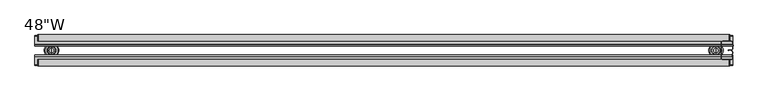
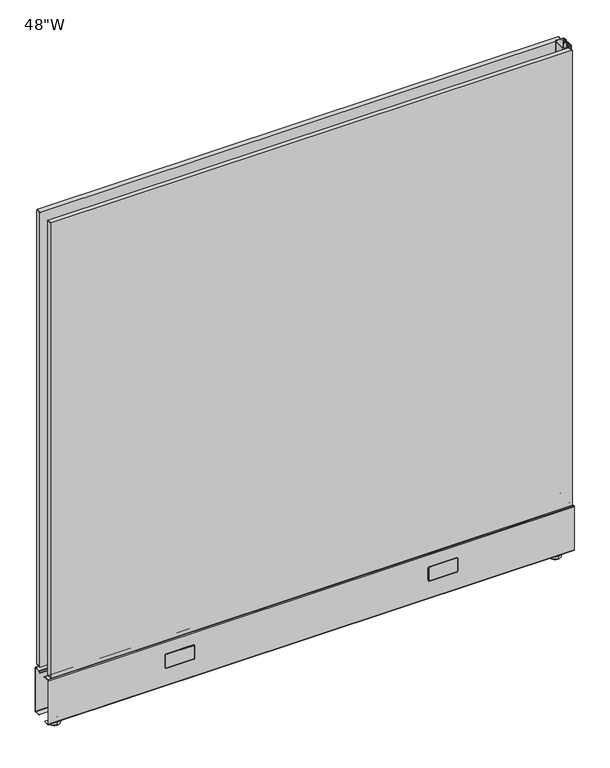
"""IFC4 building model written with IfcOpenShell, lengths in millimetres: furniture geometry."""

from ifc_helpers import new_model, si_unit, point, frame, frame_2d, origin, place, context, project, spatial, polyline, circle_curve, trimmed, segment, composite_curve, outline, extrude, source, transform, mapped, element, save
from ifc_brep_helpers import plane_surface, cylinder_surface, revolved_surface, advanced_brep


def furniture_95dbc46c(model_context):
    return source(origin(), model_context, "Body", "SolidModel", [
        extrude(outline(composite_curve([segment(trimmed(circle_curve(frame_2d((133.8403843, 1213.1740343)), 1.2634657), [point((132.5769186, 1213.1740343))], [point((133.8403843, 1214.4375))], False, "CARTESIAN"), True, "CONTINUOUS"), segment(polyline([(133.8403843, 1214.4375), (1245.2602242, 1214.4375)]), True, "CONTINUOUS"), segment(trimmed(circle_curve(frame_2d((1245.2602242, 1212.5941949)), 1.8433051), [point((1245.2602242, 1214.4375))], [point((1247.1035294, 1212.5941949))], False, "CARTESIAN"), True, "CONTINUOUS"), segment(polyline([(1247.1035294, 1212.5941949), (1247.1035294, 6.3370556)]), True, "CONTINUOUS"), segment(trimmed(circle_curve(frame_2d((1245.4908737, 6.3370556)), 1.6126556), [point((1247.1035294, 6.3370556))], [point((1245.4908737, 4.7243999))], False, "CARTESIAN"), True, "CONTINUOUS"), segment(polyline([(1245.4908737, 4.7243999), (134.0795596, 4.7243999)]), True, "CONTINUOUS"), segment(trimmed(circle_curve(frame_2d((134.0795596, 6.227041)), 1.5026411), [point((134.0795596, 4.7243999))], [point((132.5769186, 6.227041))], False, "CARTESIAN"), True, "CONTINUOUS"), segment(polyline([(132.5769186, 6.227041), (132.5769186, 1213.1740343)]), True, "CONTINUOUS")], self_intersect=False)), frame((0.0, 44.4550341, 0.0), z_axis=(0.0, 1.0, 0.0), x_axis=(0.0, 0.0, 1.0)), (0.0, 0.0, 1.0), 11.5108241),
        extrude(outline(composite_curve([segment(trimmed(circle_curve(frame_2d((133.8403843, 1213.1740343)), 1.2634657), [point((132.5769186, 1213.1740343))], [point((133.8403843, 1214.4375))], False, "CARTESIAN"), True, "CONTINUOUS"), segment(polyline([(133.8403843, 1214.4375), (1245.2602242, 1214.4375)]), True, "CONTINUOUS"), segment(trimmed(circle_curve(frame_2d((1245.2602242, 1212.5941949)), 1.8433051), [point((1245.2602242, 1214.4375))], [point((1247.1035294, 1212.5941949))], False, "CARTESIAN"), True, "CONTINUOUS"), segment(polyline([(1247.1035294, 1212.5941949), (1247.1035294, 6.3370556)]), True, "CONTINUOUS"), segment(trimmed(circle_curve(frame_2d((1245.4908737, 6.3370556)), 1.6126556), [point((1247.1035294, 6.3370556))], [point((1245.4908737, 4.7243999))], False, "CARTESIAN"), True, "CONTINUOUS"), segment(polyline([(1245.4908737, 4.7243999), (134.0795596, 4.7243999)]), True, "CONTINUOUS"), segment(trimmed(circle_curve(frame_2d((134.0795596, 6.227041)), 1.5026411), [point((134.0795596, 4.7243999))], [point((132.5769186, 6.227041))], False, "CARTESIAN"), True, "CONTINUOUS"), segment(polyline([(132.5769186, 6.227041), (132.5769186, 1213.1740343)]), True, "CONTINUOUS")], self_intersect=False)), frame((0.0, 1.3335, 0.0), z_axis=(0.0, 1.0, 0.0), x_axis=(0.0, 0.0, 1.0)), (0.0, 0.0, 1.0), 11.5108241),
        extrude(outline(composite_curve([segment(trimmed(circle_curve(frame_2d((94.8528373, 273.6849782)), 3.175), [point((98.0278373, 273.6849782))], [point((94.8528373, 270.5099782))], False, "CARTESIAN"), True, "CONTINUOUS"), segment(polyline([(94.8528373, 270.5099782), (66.2778343, 270.5099782)]), True, "CONTINUOUS"), segment(trimmed(circle_curve(frame_2d((66.2778343, 273.6849782)), 3.175), [point((66.2778343, 270.5099782))], [point((63.1028343, 273.6849782))], False, "CARTESIAN"), True, "CONTINUOUS"), segment(polyline([(63.1028343, 273.6849782), (63.1028343, 335.9150036)]), True, "CONTINUOUS"), segment(trimmed(circle_curve(frame_2d((66.2778343, 335.9150036)), 3.175), [point((63.1028343, 335.9150036))], [point((66.2778343, 339.0900036))], False, "CARTESIAN"), True, "CONTINUOUS"), segment(polyline([(66.2778343, 339.0900036), (94.8528373, 339.0900036)]), True, "CONTINUOUS"), segment(trimmed(circle_curve(frame_2d((94.8528373, 335.9150036)), 3.175), [point((94.8528373, 339.0900036))], [point((98.0278373, 335.9150036))], False, "CARTESIAN"), True, "CONTINUOUS"), segment(polyline([(98.0278373, 335.9150036), (98.0278373, 273.6849782)]), True, "CONTINUOUS")], self_intersect=False), holes=[composite_curve([segment(trimmed(circle_curve(frame_2d((66.2778343, 335.9150036)), 2.38125), [point((66.2778343, 338.2962536))], [point((63.8965843, 335.9150036))], True, "CARTESIAN"), True, "CONTINUOUS"), segment(polyline([(63.8965843, 335.9150036), (63.8965843, 273.6849782)]), True, "CONTINUOUS"), segment(trimmed(circle_curve(frame_2d((66.2778343, 273.6849782)), 2.38125), [point((63.8965843, 273.6849782))], [point((66.2778343, 271.3037282))], True, "CARTESIAN"), True, "CONTINUOUS"), segment(polyline([(66.2778343, 271.3037282), (94.8528373, 271.3037282)]), True, "CONTINUOUS"), segment(trimmed(circle_curve(frame_2d((94.8528373, 273.6849782)), 2.38125), [point((94.8528373, 271.3037282))], [point((97.2340873, 273.6849782))], True, "CARTESIAN"), True, "CONTINUOUS"), segment(polyline([(97.2340873, 273.6849782), (97.2340873, 335.9150036)]), True, "CONTINUOUS"), segment(trimmed(circle_curve(frame_2d((94.8528373, 335.9150036)), 2.38125), [point((97.2340873, 335.9150036))], [point((94.8528373, 338.2962536))], True, "CARTESIAN"), True, "CONTINUOUS"), segment(polyline([(94.8528373, 338.2962536), (66.2778343, 338.2962536)]), True, "CONTINUOUS")], self_intersect=False)]), frame((0.0, 55.054502, 0.0), z_axis=(0.0, 1.0, 0.0), x_axis=(0.0, 0.0, 1.0)), (0.0, 0.0, 1.0), 0.79375),
        extrude(outline(composite_curve([segment(trimmed(circle_curve(frame_2d((94.8528373, 335.9150036)), 1.984375), [point((94.8528373, 337.8993786))], [point((96.8372123, 335.9150036))], False, "CARTESIAN"), True, "CONTINUOUS"), segment(polyline([(96.8372123, 335.9150036), (96.8372123, 273.6849782)]), True, "CONTINUOUS"), segment(trimmed(circle_curve(frame_2d((94.8528373, 273.6849782)), 1.984375), [point((96.8372123, 273.6849782))], [point((94.8528373, 271.7006032))], False, "CARTESIAN"), True, "CONTINUOUS"), segment(polyline([(94.8528373, 271.7006032), (66.2778343, 271.7006032)]), True, "CONTINUOUS"), segment(trimmed(circle_curve(frame_2d((66.2778343, 273.6849782)), 1.984375), [point((66.2778343, 271.7006032))], [point((64.2934593, 273.6849782))], False, "CARTESIAN"), True, "CONTINUOUS"), segment(polyline([(64.2934593, 273.6849782), (64.2934593, 335.9150036)]), True, "CONTINUOUS"), segment(trimmed(circle_curve(frame_2d((66.2778343, 335.9150036)), 1.984375), [point((64.2934593, 335.9150036))], [point((66.2778343, 337.8993786))], False, "CARTESIAN"), True, "CONTINUOUS"), segment(polyline([(66.2778343, 337.8993786), (94.8528373, 337.8993786)]), True, "CONTINUOUS")], self_intersect=False)), frame((0.0, 55.054502, 0.0), z_axis=(0.0, 1.0, 0.0), x_axis=(0.0, 0.0, 1.0)), (0.0, 0.0, 1.0), 0.79375),
        extrude(outline(composite_curve([segment(trimmed(circle_curve(frame_2d((94.8528373, 883.3103491)), 3.175), [point((98.0278373, 883.3103491))], [point((94.8528373, 880.1353491))], False, "CARTESIAN"), True, "CONTINUOUS"), segment(polyline([(94.8528373, 880.1353491), (66.2778343, 880.1353491)]), True, "CONTINUOUS"), segment(trimmed(circle_curve(frame_2d((66.2778343, 883.3103491)), 3.175), [point((66.2778343, 880.1353491))], [point((63.1028343, 883.3103491))], False, "CARTESIAN"), True, "CONTINUOUS"), segment(polyline([(63.1028343, 883.3103491), (63.1028343, 945.5403745)]), True, "CONTINUOUS"), segment(trimmed(circle_curve(frame_2d((66.2778343, 945.5403745)), 3.175), [point((63.1028343, 945.5403745))], [point((66.2778343, 948.7153745))], False, "CARTESIAN"), True, "CONTINUOUS"), segment(polyline([(66.2778343, 948.7153745), (94.8528373, 948.7153745)]), True, "CONTINUOUS"), segment(trimmed(circle_curve(frame_2d((94.8528373, 945.5403745)), 3.175), [point((94.8528373, 948.7153745))], [point((98.0278373, 945.5403745))], False, "CARTESIAN"), True, "CONTINUOUS"), segment(polyline([(98.0278373, 945.5403745), (98.0278373, 883.3103491)]), True, "CONTINUOUS")], self_intersect=False), holes=[composite_curve([segment(trimmed(circle_curve(frame_2d((66.2778343, 945.5403745)), 2.38125), [point((66.2778343, 947.9216245))], [point((63.8965843, 945.5403745))], True, "CARTESIAN"), True, "CONTINUOUS"), segment(polyline([(63.8965843, 945.5403745), (63.8965843, 883.3103491)]), True, "CONTINUOUS"), segment(trimmed(circle_curve(frame_2d((66.2778343, 883.3103491)), 2.38125), [point((63.8965843, 883.3103491))], [point((66.2778343, 880.9290991))], True, "CARTESIAN"), True, "CONTINUOUS"), segment(polyline([(66.2778343, 880.9290991), (94.8528373, 880.9290991)]), True, "CONTINUOUS"), segment(trimmed(circle_curve(frame_2d((94.8528373, 883.3103491)), 2.38125), [point((94.8528373, 880.9290991))], [point((97.2340873, 883.3103491))], True, "CARTESIAN"), True, "CONTINUOUS"), segment(polyline([(97.2340873, 883.3103491), (97.2340873, 945.5403745)]), True, "CONTINUOUS"), segment(trimmed(circle_curve(frame_2d((94.8528373, 945.5403745)), 2.38125), [point((97.2340873, 945.5403745))], [point((94.8528373, 947.9216245))], True, "CARTESIAN"), True, "CONTINUOUS"), segment(polyline([(94.8528373, 947.9216245), (66.2778343, 947.9216245)]), True, "CONTINUOUS")], self_intersect=False)]), frame((0.0, 55.054502, 0.0), z_axis=(0.0, 1.0, 0.0), x_axis=(0.0, 0.0, 1.0)), (0.0, 0.0, 1.0), 0.79375),
        extrude(outline(composite_curve([segment(trimmed(circle_curve(frame_2d((94.8528373, 945.5403745)), 1.984375), [point((94.8528373, 947.5247495))], [point((96.8372123, 945.5403745))], False, "CARTESIAN"), True, "CONTINUOUS"), segment(polyline([(96.8372123, 945.5403745), (96.8372123, 883.3103491)]), True, "CONTINUOUS"), segment(trimmed(circle_curve(frame_2d((94.8528373, 883.3103491)), 1.984375), [point((96.8372123, 883.3103491))], [point((94.8528373, 881.3259741))], False, "CARTESIAN"), True, "CONTINUOUS"), segment(polyline([(94.8528373, 881.3259741), (66.2778343, 881.3259741)]), True, "CONTINUOUS"), segment(trimmed(circle_curve(frame_2d((66.2778343, 883.3103491)), 1.984375), [point((66.2778343, 881.3259741))], [point((64.2934593, 883.3103491))], False, "CARTESIAN"), True, "CONTINUOUS"), segment(polyline([(64.2934593, 883.3103491), (64.2934593, 945.5403745)]), True, "CONTINUOUS"), segment(trimmed(circle_curve(frame_2d((66.2778343, 945.5403745)), 1.984375), [point((64.2934593, 945.5403745))], [point((66.2778343, 947.5247495))], False, "CARTESIAN"), True, "CONTINUOUS"), segment(polyline([(66.2778343, 947.5247495), (94.8528373, 947.5247495)]), True, "CONTINUOUS")], self_intersect=False)), frame((0.0, 55.054502, 0.0), z_axis=(0.0, 1.0, 0.0), x_axis=(0.0, 0.0, 1.0)), (0.0, 0.0, 1.0), 0.79375),
        extrude(outline(composite_curve([segment(trimmed(circle_curve(frame_2d((94.8528373, 883.3103491)), 3.175), [point((98.0278373, 883.3103491))], [point((94.8528373, 880.1353491))], False, "CARTESIAN"), True, "CONTINUOUS"), segment(polyline([(94.8528373, 880.1353491), (66.2778343, 880.1353491)]), True, "CONTINUOUS"), segment(trimmed(circle_curve(frame_2d((66.2778343, 883.3103491)), 3.175), [point((66.2778343, 880.1353491))], [point((63.1028343, 883.3103491))], False, "CARTESIAN"), True, "CONTINUOUS"), segment(polyline([(63.1028343, 883.3103491), (63.1028343, 945.5403745)]), True, "CONTINUOUS"), segment(trimmed(circle_curve(frame_2d((66.2778343, 945.5403745)), 3.175), [point((63.1028343, 945.5403745))], [point((66.2778343, 948.7153745))], False, "CARTESIAN"), True, "CONTINUOUS"), segment(polyline([(66.2778343, 948.7153745), (94.8528373, 948.7153745)]), True, "CONTINUOUS"), segment(trimmed(circle_curve(frame_2d((94.8528373, 945.5403745)), 3.175), [point((94.8528373, 948.7153745))], [point((98.0278373, 945.5403745))], False, "CARTESIAN"), True, "CONTINUOUS"), segment(polyline([(98.0278373, 945.5403745), (98.0278373, 883.3103491)]), True, "CONTINUOUS")], self_intersect=False), holes=[composite_curve([segment(trimmed(circle_curve(frame_2d((66.2778343, 945.5403745)), 2.38125), [point((66.2778343, 947.9216245))], [point((63.8965843, 945.5403745))], True, "CARTESIAN"), True, "CONTINUOUS"), segment(polyline([(63.8965843, 945.5403745), (63.8965843, 883.3103491)]), True, "CONTINUOUS"), segment(trimmed(circle_curve(frame_2d((66.2778343, 883.3103491)), 2.38125), [point((63.8965843, 883.3103491))], [point((66.2778343, 880.9290991))], True, "CARTESIAN"), True, "CONTINUOUS"), segment(polyline([(66.2778343, 880.9290991), (94.8528373, 880.9290991)]), True, "CONTINUOUS"), segment(trimmed(circle_curve(frame_2d((94.8528373, 883.3103491)), 2.38125), [point((94.8528373, 880.9290991))], [point((97.2340873, 883.3103491))], True, "CARTESIAN"), True, "CONTINUOUS"), segment(polyline([(97.2340873, 883.3103491), (97.2340873, 945.5403745)]), True, "CONTINUOUS"), segment(trimmed(circle_curve(frame_2d((94.8528373, 945.5403745)), 2.38125), [point((97.2340873, 945.5403745))], [point((94.8528373, 947.9216245))], True, "CARTESIAN"), True, "CONTINUOUS"), segment(polyline([(94.8528373, 947.9216245), (66.2778343, 947.9216245)]), True, "CONTINUOUS")], self_intersect=False)]), frame((0.0, 1.2954, 0.0), z_axis=(0.0, 1.0, 0.0), x_axis=(0.0, 0.0, 1.0)), (0.0, 0.0, 1.0), 0.79375),
        extrude(outline(composite_curve([segment(trimmed(circle_curve(frame_2d((94.8528373, 945.5403745)), 1.984375), [point((94.8528373, 947.5247495))], [point((96.8372123, 945.5403745))], False, "CARTESIAN"), True, "CONTINUOUS"), segment(polyline([(96.8372123, 945.5403745), (96.8372123, 883.3103491)]), True, "CONTINUOUS"), segment(trimmed(circle_curve(frame_2d((94.8528373, 883.3103491)), 1.984375), [point((96.8372123, 883.3103491))], [point((94.8528373, 881.3259741))], False, "CARTESIAN"), True, "CONTINUOUS"), segment(polyline([(94.8528373, 881.3259741), (66.2778343, 881.3259741)]), True, "CONTINUOUS"), segment(trimmed(circle_curve(frame_2d((66.2778343, 883.3103491)), 1.984375), [point((66.2778343, 881.3259741))], [point((64.2934593, 883.3103491))], False, "CARTESIAN"), True, "CONTINUOUS"), segment(polyline([(64.2934593, 883.3103491), (64.2934593, 945.5403745)]), True, "CONTINUOUS"), segment(trimmed(circle_curve(frame_2d((66.2778343, 945.5403745)), 1.984375), [point((64.2934593, 945.5403745))], [point((66.2778343, 947.5247495))], False, "CARTESIAN"), True, "CONTINUOUS"), segment(polyline([(66.2778343, 947.5247495), (94.8528373, 947.5247495)]), True, "CONTINUOUS")], self_intersect=False)), frame((0.0, 1.2954, 0.0), z_axis=(0.0, 1.0, 0.0), x_axis=(0.0, 0.0, 1.0)), (0.0, 0.0, 1.0), 0.79375),
        extrude(outline(composite_curve([segment(trimmed(circle_curve(frame_2d((94.8528373, 273.6849782)), 3.175), [point((98.0278373, 273.6849782))], [point((94.8528373, 270.5099782))], False, "CARTESIAN"), True, "CONTINUOUS"), segment(polyline([(94.8528373, 270.5099782), (66.2778343, 270.5099782)]), True, "CONTINUOUS"), segment(trimmed(circle_curve(frame_2d((66.2778343, 273.6849782)), 3.175), [point((66.2778343, 270.5099782))], [point((63.1028343, 273.6849782))], False, "CARTESIAN"), True, "CONTINUOUS"), segment(polyline([(63.1028343, 273.6849782), (63.1028343, 335.9150036)]), True, "CONTINUOUS"), segment(trimmed(circle_curve(frame_2d((66.2778343, 335.9150036)), 3.175), [point((63.1028343, 335.9150036))], [point((66.2778343, 339.0900036))], False, "CARTESIAN"), True, "CONTINUOUS"), segment(polyline([(66.2778343, 339.0900036), (94.8528373, 339.0900036)]), True, "CONTINUOUS"), segment(trimmed(circle_curve(frame_2d((94.8528373, 335.9150036)), 3.175), [point((94.8528373, 339.0900036))], [point((98.0278373, 335.9150036))], False, "CARTESIAN"), True, "CONTINUOUS"), segment(polyline([(98.0278373, 335.9150036), (98.0278373, 273.6849782)]), True, "CONTINUOUS")], self_intersect=False), holes=[composite_curve([segment(trimmed(circle_curve(frame_2d((66.2778343, 335.9150036)), 2.38125), [point((66.2778343, 338.2962536))], [point((63.8965843, 335.9150036))], True, "CARTESIAN"), True, "CONTINUOUS"), segment(polyline([(63.8965843, 335.9150036), (63.8965843, 273.6849782)]), True, "CONTINUOUS"), segment(trimmed(circle_curve(frame_2d((66.2778343, 273.6849782)), 2.38125), [point((63.8965843, 273.6849782))], [point((66.2778343, 271.3037282))], True, "CARTESIAN"), True, "CONTINUOUS"), segment(polyline([(66.2778343, 271.3037282), (94.8528373, 271.3037282)]), True, "CONTINUOUS"), segment(trimmed(circle_curve(frame_2d((94.8528373, 273.6849782)), 2.38125), [point((94.8528373, 271.3037282))], [point((97.2340873, 273.6849782))], True, "CARTESIAN"), True, "CONTINUOUS"), segment(polyline([(97.2340873, 273.6849782), (97.2340873, 335.9150036)]), True, "CONTINUOUS"), segment(trimmed(circle_curve(frame_2d((94.8528373, 335.9150036)), 2.38125), [point((97.2340873, 335.9150036))], [point((94.8528373, 338.2962536))], True, "CARTESIAN"), True, "CONTINUOUS"), segment(polyline([(94.8528373, 338.2962536), (66.2778343, 338.2962536)]), True, "CONTINUOUS")], self_intersect=False)]), frame((0.0, 1.2954, 0.0), z_axis=(0.0, 1.0, 0.0), x_axis=(0.0, 0.0, 1.0)), (0.0, 0.0, 1.0), 0.79375),
        extrude(outline(composite_curve([segment(trimmed(circle_curve(frame_2d((94.8528373, 335.9150036)), 1.984375), [point((94.8528373, 337.8993786))], [point((96.8372123, 335.9150036))], False, "CARTESIAN"), True, "CONTINUOUS"), segment(polyline([(96.8372123, 335.9150036), (96.8372123, 273.6849782)]), True, "CONTINUOUS"), segment(trimmed(circle_curve(frame_2d((94.8528373, 273.6849782)), 1.984375), [point((96.8372123, 273.6849782))], [point((94.8528373, 271.7006032))], False, "CARTESIAN"), True, "CONTINUOUS"), segment(polyline([(94.8528373, 271.7006032), (66.2778343, 271.7006032)]), True, "CONTINUOUS"), segment(trimmed(circle_curve(frame_2d((66.2778343, 273.6849782)), 1.984375), [point((66.2778343, 271.7006032))], [point((64.2934593, 273.6849782))], False, "CARTESIAN"), True, "CONTINUOUS"), segment(polyline([(64.2934593, 273.6849782), (64.2934593, 335.9150036)]), True, "CONTINUOUS"), segment(trimmed(circle_curve(frame_2d((66.2778343, 335.9150036)), 1.984375), [point((64.2934593, 335.9150036))], [point((66.2778343, 337.8993786))], False, "CARTESIAN"), True, "CONTINUOUS"), segment(polyline([(66.2778343, 337.8993786), (94.8528373, 337.8993786)]), True, "CONTINUOUS")], self_intersect=False)), frame((0.0, 1.2954, 0.0), z_axis=(0.0, 1.0, 0.0), x_axis=(0.0, 0.0, 1.0)), (0.0, 0.0, 1.0), 0.79375),
        advanced_brep(
        [(1189.9900097, 41.1455956, 7.9264178), (1189.9900097, 16.0044044, 7.9264178), (1189.9900097, 17.5919044, 9.5139178), (1189.9900097, 39.5580956, 9.5139178), (1189.9900097, 41.1455956, 0.79375), (1189.9900097, 16.0044044, 0.79375), (1189.9900097, 40.3518456, 0.0), (1189.9900097, 16.7981544, 0.0), (1189.9900097, 28.575, 0.0), (1189.9900097, 35.6235001, 11.2919173), (1189.9900097, 21.5264999, 11.2919173), (1189.9900097, 24.6038476, 11.2919173), (1189.9900097, 32.5461524, 11.2919173), (1189.9900097, 36.2584995, 10.6569179), (1189.9900097, 20.8915005, 10.6569179), (1189.9900097, 36.2584995, 9.5139178), (1189.9900097, 20.8915005, 9.5139178), (1189.9900097, 32.5461524, 27.1248686), (1189.9900097, 24.6038476, 27.1248686), (1189.9900097, 28.575, 27.1248686)],
        [
            (0, 1, circle_curve(frame((1189.9900097, 28.575, 7.9264178), z_axis=(0.0, 0.0, 1.0), x_axis=(0.0, -1.0, 0.0)), 12.5705956)),
            (1, 2),
            (2, 3, circle_curve(frame((1189.9900097, 28.575, 9.5139178), z_axis=(0.0, 0.0, -1.0), x_axis=(0.0, -1.0, 0.0)), 10.9830956)),
            (3, 0),
            (1, 0, circle_curve(frame((1189.9900097, 28.575, 7.9264178), z_axis=(0.0, 0.0, 1.0), x_axis=(0.0, -1.0, 0.0)), 12.5705956)),
            (3, 2, circle_curve(frame((1189.9900097, 28.575, 9.5139178), z_axis=(0.0, 0.0, -1.0), x_axis=(0.0, -1.0, 0.0)), 10.9830956)),
            (4, 5, circle_curve(frame((1189.9900097, 28.575, 0.79375), z_axis=(0.0, 0.0, 1.0), x_axis=(0.0, -1.0, 0.0)), 12.5705956)),
            (5, 1),
            (0, 4),
            (5, 4, circle_curve(frame((1189.9900097, 28.575, 0.79375), z_axis=(0.0, 0.0, 1.0), x_axis=(0.0, -1.0, 0.0)), 12.5705956)),
            (6, 7, circle_curve(frame((1189.9900097, 28.575, 0.0), z_axis=(0.0, 0.0, 1.0), x_axis=(0.0, -1.0, 0.0)), 11.7768456)),
            (7, 5),
            (4, 6),
            (7, 6, circle_curve(frame((1189.9900097, 28.575, 0.0), z_axis=(0.0, 0.0, 1.0), x_axis=(0.0, -1.0, 0.0)), 11.7768456)),
            (8, 7),
            (6, 8),
            (9, 10, circle_curve(frame((1189.9900097, 28.575, 11.2919173), z_axis=(0.0, 0.0, 1.0), x_axis=(0.0, -1.0, 0.0)), 7.0485001)),
            (10, 11),
            (11, 12, circle_curve(frame((1189.9900097, 28.575, 11.2919173), z_axis=(0.0, 0.0, -1.0), x_axis=(0.0, -1.0, 0.0)), 3.9711524)),
            (12, 9),
            (10, 9, circle_curve(frame((1189.9900097, 28.575, 11.2919173), z_axis=(0.0, 0.0, 1.0), x_axis=(0.0, -1.0, 0.0)), 7.0485001)),
            (12, 11, circle_curve(frame((1189.9900097, 28.575, 11.2919173), z_axis=(0.0, 0.0, -1.0), x_axis=(0.0, -1.0, 0.0)), 3.9711524)),
            (13, 14, circle_curve(frame((1189.9900097, 28.575, 10.6569179), z_axis=(0.0, 0.0, 1.0), x_axis=(0.0, -1.0, 0.0)), 7.6834995)),
            (14, 10),
            (9, 13),
            (14, 13, circle_curve(frame((1189.9900097, 28.575, 10.6569179), z_axis=(0.0, 0.0, 1.0), x_axis=(0.0, -1.0, 0.0)), 7.6834995)),
            (15, 16, circle_curve(frame((1189.9900097, 28.575, 9.5139178), z_axis=(0.0, 0.0, 1.0), x_axis=(0.0, -1.0, 0.0)), 7.6834995)),
            (16, 14),
            (13, 15),
            (16, 15, circle_curve(frame((1189.9900097, 28.575, 9.5139178), z_axis=(0.0, 0.0, 1.0), x_axis=(0.0, -1.0, 0.0)), 7.6834995)),
            (2, 16),
            (15, 3),
            (17, 18, circle_curve(frame((1189.9900097, 28.575, 27.1248686), z_axis=(0.0, 0.0, 1.0), x_axis=(0.0, -1.0, 0.0)), 3.9711524)),
            (18, 19),
            (19, 17),
            (18, 17, circle_curve(frame((1189.9900097, 28.575, 27.1248686), z_axis=(0.0, 0.0, 1.0), x_axis=(0.0, -1.0, 0.0)), 3.9711524)),
            (11, 18),
            (17, 12),
        ],
        [
            revolved_surface(polyline([(1189.9900097, 17.5919044, 9.5139178), (1189.9900097, 16.0044044, 7.9264178)]), (1189.9900097, 28.575, 0.0), (0.0, 0.0, -1.0)),
            cylinder_surface(frame((1189.9900097, 28.575, 0.0), z_axis=(0.0, 0.0, -1.0), x_axis=(0.0, -1.0, 0.0)), 12.5705956),
            revolved_surface(polyline([(1189.9900097, 16.0044044, 0.79375), (1189.9900097, 16.7981544, 0.0)]), (1189.9900097, 28.575, 0.0), (0.0, 0.0, -1.0)),
            plane_surface(frame((1189.9900097, 28.575, 0.0), z_axis=(0.0, 0.0, -1.0), x_axis=(0.0, -1.0, 0.0))),
            plane_surface(frame((1189.9900097, 28.575, 11.2919173), z_axis=(0.0, 0.0, 1.0), x_axis=(0.0, -1.0, 0.0))),
            revolved_surface(polyline([(1189.9900097, 21.5264999, 11.2919173), (1189.9900097, 20.8915005, 10.6569179)]), (1189.9900097, 28.575, 0.0), (0.0, 0.0, -1.0)),
            cylinder_surface(frame((1189.9900097, 28.575, 0.0), z_axis=(0.0, 0.0, -1.0), x_axis=(0.0, -1.0, 0.0)), 7.6834995),
            plane_surface(frame((1189.9900097, 28.575, 9.5139178), z_axis=(0.0, 0.0, 1.0), x_axis=(0.0, -1.0, 0.0))),
            plane_surface(frame((1189.9900097, 28.575, 27.1248686), z_axis=(0.0, 0.0, 1.0), x_axis=(0.0, -1.0, 0.0))),
            cylinder_surface(frame((1189.9900097, 28.575, 0.0), z_axis=(0.0, 0.0, -1.0), x_axis=(0.0, -1.0, 0.0)), 3.9711524),
        ],
        [
            (0, [[1, 2, 3, 4]]),
            (0, [[5, -4, 6, -2]]),
            (1, [[7, 8, -1, 9]]),
            (1, [[10, -9, -5, -8]]),
            (2, [[11, 12, -7, 13]]),
            (2, [[14, -13, -10, -12]]),
            (3, [[15, -11, 16]]),
            (3, [[-16, -14, -15]]),
            (4, [[17, 18, 19, 20]]),
            (4, [[21, -20, 22, -18]]),
            (5, [[23, 24, -17, 25]]),
            (5, [[26, -25, -21, -24]]),
            (6, [[27, 28, -23, 29]]),
            (6, [[30, -29, -26, -28]]),
            (7, [[-3, 31, -27, 32]]),
            (7, [[-6, -32, -30, -31]]),
            (8, [[33, 34, 35]]),
            (8, [[36, -35, -34]]),
            (9, [[-19, 37, -33, 38]]),
            (9, [[-22, -38, -36, -37]]),
        ],
    ),
        advanced_brep(
        [(29.2099994, 36.2584995, 9.5139178), (29.2099994, 20.8915005, 9.5139178), (29.2099994, 17.5919044, 9.5139178), (29.2099994, 39.5580956, 9.5139178), (29.2099994, 36.2584995, 10.6569179), (29.2099994, 20.8915005, 10.6569179), (29.2099994, 35.6235001, 11.2919173), (29.2099994, 21.5264999, 11.2919173), (29.2099994, 32.5461524, 11.2919173), (29.2099994, 24.6038476, 11.2919173), (29.2099994, 40.3518456, 0.0), (29.2099994, 16.7981544, 0.0), (29.2099994, 28.575, 0.0), (29.2099994, 41.1455956, 0.79375), (29.2099994, 16.0044044, 0.79375), (29.2099994, 41.1455956, 7.9264178), (29.2099994, 16.0044044, 7.9264178), (29.2099994, 32.5461524, 27.1248686), (29.2099994, 24.6038476, 27.1248686), (29.2099994, 28.575, 27.1248686)],
        [
            (0, 1, circle_curve(frame((29.2099994, 28.575, 9.5139178), z_axis=(0.0, 0.0, -1.0), x_axis=(0.0, -1.0, 0.0)), 7.6834995)),
            (1, 2),
            (2, 3, circle_curve(frame((29.2099994, 28.575, 9.5139178), z_axis=(0.0, 0.0, 1.0), x_axis=(0.0, -1.0, 0.0)), 10.9830956)),
            (3, 0),
            (1, 0, circle_curve(frame((29.2099994, 28.575, 9.5139178), z_axis=(0.0, 0.0, -1.0), x_axis=(0.0, -1.0, 0.0)), 7.6834995)),
            (3, 2, circle_curve(frame((29.2099994, 28.575, 9.5139178), z_axis=(0.0, 0.0, 1.0), x_axis=(0.0, -1.0, 0.0)), 10.9830956)),
            (4, 5, circle_curve(frame((29.2099994, 28.575, 10.6569179), z_axis=(0.0, 0.0, -1.0), x_axis=(0.0, -1.0, 0.0)), 7.6834995)),
            (5, 1),
            (0, 4),
            (5, 4, circle_curve(frame((29.2099994, 28.575, 10.6569179), z_axis=(0.0, 0.0, -1.0), x_axis=(0.0, -1.0, 0.0)), 7.6834995)),
            (6, 7, circle_curve(frame((29.2099994, 28.575, 11.2919173), z_axis=(0.0, 0.0, -1.0), x_axis=(0.0, -1.0, 0.0)), 7.0485001)),
            (7, 5),
            (4, 6),
            (7, 6, circle_curve(frame((29.2099994, 28.575, 11.2919173), z_axis=(0.0, 0.0, -1.0), x_axis=(0.0, -1.0, 0.0)), 7.0485001)),
            (8, 9, circle_curve(frame((29.2099994, 28.575, 11.2919173), z_axis=(0.0, 0.0, -1.0), x_axis=(0.0, -1.0, 0.0)), 3.9711524)),
            (9, 7),
            (6, 8),
            (9, 8, circle_curve(frame((29.2099994, 28.575, 11.2919173), z_axis=(0.0, 0.0, -1.0), x_axis=(0.0, -1.0, 0.0)), 3.9711524)),
            (10, 11, circle_curve(frame((29.2099994, 28.575, 0.0), z_axis=(0.0, 0.0, -1.0), x_axis=(0.0, -1.0, 0.0)), 11.7768456)),
            (11, 12),
            (12, 10),
            (11, 10, circle_curve(frame((29.2099994, 28.575, 0.0), z_axis=(0.0, 0.0, -1.0), x_axis=(0.0, -1.0, 0.0)), 11.7768456)),
            (13, 14, circle_curve(frame((29.2099994, 28.575, 0.79375), z_axis=(0.0, 0.0, -1.0), x_axis=(0.0, -1.0, 0.0)), 12.5705956)),
            (14, 11),
            (10, 13),
            (14, 13, circle_curve(frame((29.2099994, 28.575, 0.79375), z_axis=(0.0, 0.0, -1.0), x_axis=(0.0, -1.0, 0.0)), 12.5705956)),
            (15, 16, circle_curve(frame((29.2099994, 28.575, 7.9264178), z_axis=(0.0, 0.0, -1.0), x_axis=(0.0, -1.0, 0.0)), 12.5705956)),
            (16, 14),
            (13, 15),
            (16, 15, circle_curve(frame((29.2099994, 28.575, 7.9264178), z_axis=(0.0, 0.0, -1.0), x_axis=(0.0, -1.0, 0.0)), 12.5705956)),
            (2, 16),
            (15, 3),
            (17, 18, circle_curve(frame((29.2099994, 28.575, 27.1248686), z_axis=(0.0, 0.0, -1.0), x_axis=(0.0, -1.0, 0.0)), 3.9711524)),
            (18, 9),
            (8, 17),
            (18, 17, circle_curve(frame((29.2099994, 28.575, 27.1248686), z_axis=(0.0, 0.0, -1.0), x_axis=(0.0, -1.0, 0.0)), 3.9711524)),
            (19, 18),
            (17, 19),
        ],
        [
            plane_surface(frame((29.2099994, 28.575, 9.5139178), z_axis=(0.0, 0.0, 1.0), x_axis=(0.0, -1.0, 0.0))),
            cylinder_surface(frame((29.2099994, 28.575, 44.45), z_axis=(0.0, 0.0, 1.0), x_axis=(0.0, -1.0, 0.0)), 7.6834995),
            revolved_surface(polyline([(29.2099994, 20.8915005, 10.6569179), (29.2099994, 21.5264999, 11.2919173)]), (29.2099994, 28.575, 44.45), (0.0, 0.0, 1.0)),
            plane_surface(frame((29.2099994, 28.575, 11.2919173), z_axis=(0.0, 0.0, 1.0), x_axis=(0.0, -1.0, 0.0))),
            plane_surface(frame((29.2099994, 28.575, 0.0), z_axis=(0.0, 0.0, -1.0), x_axis=(0.0, -1.0, 0.0))),
            revolved_surface(polyline([(29.2099994, 16.7981544, 0.0), (29.2099994, 16.0044044, 0.79375)]), (29.2099994, 28.575, 44.45), (0.0, 0.0, 1.0)),
            cylinder_surface(frame((29.2099994, 28.575, 44.45), z_axis=(0.0, 0.0, 1.0), x_axis=(0.0, -1.0, 0.0)), 12.5705956),
            revolved_surface(polyline([(29.2099994, 16.0044044, 7.9264178), (29.2099994, 17.5919044, 9.5139178)]), (29.2099994, 28.575, 44.45), (0.0, 0.0, 1.0)),
            cylinder_surface(frame((29.2099994, 28.575, 44.45), z_axis=(0.0, 0.0, 1.0), x_axis=(0.0, -1.0, 0.0)), 3.9711524),
            plane_surface(frame((29.2099994, 28.575, 27.1248686), z_axis=(0.0, 0.0, 1.0), x_axis=(0.0, -1.0, 0.0))),
        ],
        [
            (0, [[1, 2, 3, 4]]),
            (0, [[5, -4, 6, -2]]),
            (1, [[7, 8, -1, 9]]),
            (1, [[10, -9, -5, -8]]),
            (2, [[11, 12, -7, 13]]),
            (2, [[14, -13, -10, -12]]),
            (3, [[15, 16, -11, 17]]),
            (3, [[18, -17, -14, -16]]),
            (4, [[19, 20, 21]]),
            (4, [[22, -21, -20]]),
            (5, [[23, 24, -19, 25]]),
            (5, [[26, -25, -22, -24]]),
            (6, [[27, 28, -23, 29]]),
            (6, [[30, -29, -26, -28]]),
            (7, [[-3, 31, -27, 32]]),
            (7, [[-6, -32, -30, -31]]),
            (8, [[33, 34, -15, 35]]),
            (8, [[36, -35, -18, -34]]),
            (9, [[37, -33, 38]]),
            (9, [[-38, -36, -37]]),
        ],
    ),
        extrude(outline(composite_curve([segment(trimmed(circle_curve(frame_2d((3.67665, 127.0651214)), 1.5875), [point((2.08915, 127.0651214))], [point((3.67665, 128.6526214))], False, "CARTESIAN"), True, "CONTINUOUS"), segment(polyline([(3.67665, 128.6526214), (16.9557654, 128.6526214)]), True, "CONTINUOUS"), segment(trimmed(circle_curve(frame_2d((16.9557654, 127.0537817)), 1.5988397), [point((16.9557654, 128.6526214))], [point((18.1058757, 128.1644277))], False, "CARTESIAN"), True, "CONTINUOUS"), segment(polyline([(18.1058757, 128.1644277), (20.8470642, 125.3258372), (20.2857127, 124.7644857), (17.7656046, 127.3741402)]), True, "CONTINUOUS"), segment(trimmed(circle_curve(frame_2d((16.6236514, 126.2713714)), 1.5875), [point((17.7656046, 127.3741402))], [point((16.6236514, 127.8588714))], True, "CARTESIAN"), True, "CONTINUOUS"), segment(polyline([(16.6236514, 127.8588714), (3.67665, 127.8588714)]), True, "CONTINUOUS"), segment(trimmed(circle_curve(frame_2d((3.67665, 127.0651214)), 0.79375), [point((3.67665, 127.8588714))], [point((2.8829, 127.0651214))], True, "CARTESIAN"), True, "CONTINUOUS"), segment(polyline([(2.8829, 127.0651214), (2.8829, 21.128067)]), True, "CONTINUOUS"), segment(trimmed(circle_curve(frame_2d((3.67665, 21.128067)), 0.79375), [point((2.8829, 21.128067))], [point((3.67665, 20.334317))], True, "CARTESIAN"), True, "CONTINUOUS"), segment(polyline([(3.67665, 20.334317), (16.0826734, 20.334317), (16.0826734, 19.540567), (3.67665, 19.540567)]), True, "CONTINUOUS"), segment(trimmed(circle_curve(frame_2d((3.67665, 21.128067)), 1.5875), [point((3.67665, 19.540567))], [point((2.08915, 21.128067))], False, "CARTESIAN"), True, "CONTINUOUS"), segment(polyline([(2.08915, 21.128067), (2.08915, 127.0651214)]), True, "CONTINUOUS")], self_intersect=False)), frame((0.0, 0.0, 0.0), z_axis=(1.0, 0.0, 0.0), x_axis=(0.0, 1.0, 0.0)), (0.0, 0.0, 1.0), 1219.2),
        extrude(outline(composite_curve([segment(polyline([(55.054502, 127.8488945), (55.054502, 21.9118401)]), True, "CONTINUOUS"), segment(trimmed(circle_curve(frame_2d((53.467002, 21.9118401)), 1.5875), [point((55.054502, 21.9118401))], [point((53.467002, 20.3243401))], False, "CARTESIAN"), True, "CONTINUOUS"), segment(polyline([(53.467002, 20.3243401), (41.0609786, 20.3243401), (41.0609786, 21.1180901), (53.467002, 21.1180901)]), True, "CONTINUOUS"), segment(trimmed(circle_curve(frame_2d((53.467002, 21.9118401)), 0.79375), [point((53.467002, 21.1180901))], [point((54.260752, 21.9118401))], True, "CARTESIAN"), True, "CONTINUOUS"), segment(polyline([(54.260752, 21.9118401), (54.260752, 127.8488945)]), True, "CONTINUOUS"), segment(trimmed(circle_curve(frame_2d((53.467002, 127.8488945)), 0.79375), [point((54.260752, 127.8488945))], [point((53.467002, 128.6426445))], True, "CARTESIAN"), True, "CONTINUOUS"), segment(polyline([(53.467002, 128.6426445), (40.5200006, 128.6426445)]), True, "CONTINUOUS"), segment(trimmed(circle_curve(frame_2d((40.5200006, 127.0551445)), 1.5875), [point((40.5200006, 128.6426445))], [point((39.3780474, 128.1579133))], True, "CARTESIAN"), True, "CONTINUOUS"), segment(polyline([(39.3780474, 128.1579133), (36.8579393, 125.5482588), (36.2965878, 126.1096103), (39.0377763, 128.9482008)]), True, "CONTINUOUS"), segment(trimmed(circle_curve(frame_2d((40.1878866, 127.8375548)), 1.5988397), [point((39.0377763, 128.9482008))], [point((40.1878866, 129.4363945))], False, "CARTESIAN"), True, "CONTINUOUS"), segment(polyline([(40.1878866, 129.4363945), (53.467002, 129.4363945)]), True, "CONTINUOUS"), segment(trimmed(circle_curve(frame_2d((53.467002, 127.8488945)), 1.5875), [point((53.467002, 129.4363945))], [point((55.054502, 127.8488945))], False, "CARTESIAN"), True, "CONTINUOUS")], self_intersect=False)), frame((0.0, 0.0, 0.0), z_axis=(1.0, 0.0, 0.0), x_axis=(0.0, 1.0, 0.0)), (0.0, 0.0, 1.0), 1219.2),
        advanced_brep(
        [(1201.7446565, 44.4550341, 1249.3625), (1199.3634065, 42.0737841, 1249.3625), (1199.3634065, 15.1039609, 1249.3625), (1201.7623315, 12.705036, 1249.3625), (1216.7370057, 12.705036, 1249.3625), (1219.1754058, 15.1039609, 1249.3625), (1219.1754058, 17.9274722, 1249.3625), (1219.2, 22.7944174, 1249.3625), (1219.2, 25.4623045, 1249.3625), (1217.2169242, 27.8193313, 1249.3625), (1212.7844003, 28.5888726, 1249.3625), (1217.2169242, 29.3584138, 1249.3625), (1219.2, 31.7154406, 1249.3625), (1219.2, 34.441489, 1249.3625), (1219.1754058, 39.2502728, 1249.3625), (1219.1754058, 42.0737841, 1249.3625), (1216.7941558, 44.4550341, 1249.3625), (1218.3816558, 17.6524355, 1249.3625), (1218.3816558, 15.1039609, 1249.3625), (1216.7941558, 13.5164609, 1249.3625), (1201.7623315, 13.498786, 1249.3625), (1200.1571565, 15.1039609, 1249.3625), (1200.1571565, 42.0737841, 1249.3625), (1201.7446565, 43.6612841, 1249.3625), (1216.7941558, 43.6612841, 1249.3625), (1218.3816558, 42.0737841, 1249.3625), (1218.3816558, 38.9396595, 1249.3625), (1218.40625, 34.7471082, 1249.3625), (1218.40625, 31.7154406, 1249.3625), (1217.0811503, 30.1404653, 1249.3625), (1210.4642223, 28.9916843, 1249.3625), (1210.4642223, 28.1860608, 1249.3625), (1217.0811503, 27.0372798, 1249.3625), (1218.40625, 25.4623045, 1249.3625), (1218.40625, 23.0737131, 1249.3625), (1201.7446565, 44.4550341, 130.175), (1216.7941558, 44.4550341, 130.175), (1219.1754058, 42.0737841, 130.175), (1219.1754058, 39.2502728, 130.175), (1219.2, 34.441489, 130.175), (1219.2, 31.7154406, 130.175), (1217.2169242, 29.3584138, 130.175), (1212.7844003, 28.5888726, 130.175), (1217.2169242, 27.8193313, 130.175), (1219.2, 25.4623045, 130.175), (1219.2, 22.7944174, 130.175), (1219.1754058, 17.9274722, 130.175), (1219.1754058, 15.1039609, 130.175), (1216.7941558, 12.7227109, 130.175), (1201.7623315, 12.705036, 130.175), (1199.3634065, 15.1039609, 130.175), (1199.3634065, 42.0737841, 130.175), (1218.3816558, 17.6524355, 130.175), (1218.40625, 23.0737131, 130.175), (1218.40625, 25.4623045, 130.175), (1217.0811503, 27.0372798, 130.175), (1210.4642223, 28.1860608, 130.175), (1210.4642223, 28.9916843, 130.175), (1217.0811503, 30.1404653, 130.175), (1218.40625, 31.7154406, 130.175), (1218.40625, 34.7471082, 130.175), (1218.3816558, 38.9396595, 130.175), (1218.3816558, 42.0737841, 130.175), (1216.7941558, 43.6612841, 130.175), (1201.7446565, 43.6612841, 130.175), (1200.1571565, 42.0737841, 130.175), (1200.1571565, 15.1039609, 130.175), (1201.7623315, 13.498786, 130.175), (1216.7370057, 13.498786, 130.175), (1218.3816558, 15.1039609, 130.175)],
        [
            (0, 1, circle_curve(frame((1201.7446565, 42.0737841, 1249.3625), z_axis=(0.0, 0.0, 1.0), x_axis=(-1.0, 0.0, 0.0)), 2.38125)),
            (1, 2),
            (2, 3, circle_curve(frame((1201.7623315, 15.1039609, 1249.3625), z_axis=(0.0, 0.0, 1.0), x_axis=(-1.0, 0.0, 0.0)), 2.398925)),
            (3, 4),
            (4, 5, circle_curve(frame((1216.7941558, 15.1039609, 1249.3625), z_axis=(0.0, 0.0, 1.0), x_axis=(-1.0, 0.0, 0.0)), 2.38125)),
            (5, 6),
            (6, 7, circle_curve(frame((1222.0354169, 20.3465544, 1249.3625), z_axis=(0.0, 0.0, -1.0), x_axis=(-1.0, 0.0, 0.0)), 3.7458807)),
            (7, 8),
            (8, 9, circle_curve(frame((1216.807715, 25.4623045, 1249.3625), z_axis=(0.0, 0.0, 1.0), x_axis=(-1.0, 0.0, 0.0)), 2.392285)),
            (9, 10),
            (10, 11),
            (11, 12, circle_curve(frame((1216.807715, 31.7154406, 1249.3625), z_axis=(0.0, 0.0, 1.0), x_axis=(-1.0, 0.0, 0.0)), 2.392285)),
            (12, 13),
            (13, 14, circle_curve(frame((1216.3153946, 36.8311907, 1249.3625), z_axis=(0.0, 0.0, 1.0), x_axis=(-1.0, 0.0, 0.0)), 3.7458807)),
            (14, 15),
            (15, 16, circle_curve(frame((1216.7941558, 42.0737841, 1249.3625), z_axis=(0.0, 0.0, 1.0), x_axis=(-1.0, 0.0, 0.0)), 2.38125)),
            (16, 0),
            (17, 18),
            (18, 19, circle_curve(frame((1216.7941558, 15.1039609, 1249.3625), z_axis=(0.0, 0.0, -1.0), x_axis=(-1.0, 0.0, 0.0)), 1.5875)),
            (19, 20),
            (20, 21, circle_curve(frame((1201.7623315, 15.1039609, 1249.3625), z_axis=(0.0, 0.0, -1.0), x_axis=(-1.0, 0.0, 0.0)), 1.605175)),
            (21, 22),
            (22, 23, circle_curve(frame((1201.7446565, 42.0737841, 1249.3625), z_axis=(0.0, 0.0, -1.0), x_axis=(-1.0, 0.0, 0.0)), 1.5875)),
            (23, 24),
            (24, 25, circle_curve(frame((1216.7941558, 42.0737841, 1249.3625), z_axis=(0.0, 0.0, -1.0), x_axis=(-1.0, 0.0, 0.0)), 1.5875)),
            (25, 26),
            (26, 27, circle_curve(frame((1216.3153946, 36.8311907, 1249.3625), z_axis=(0.0, 0.0, -1.0), x_axis=(-1.0, 0.0, 0.0)), 2.9521307)),
            (27, 28),
            (28, 29, circle_curve(frame((1216.807715, 31.7154406, 1249.3625), z_axis=(0.0, 0.0, -1.0), x_axis=(-1.0, 0.0, 0.0)), 1.598535)),
            (29, 30),
            (30, 31),
            (31, 32),
            (32, 33, circle_curve(frame((1216.807715, 25.4623045, 1249.3625), z_axis=(0.0, 0.0, -1.0), x_axis=(-1.0, 0.0, 0.0)), 1.598535)),
            (33, 34),
            (34, 17, circle_curve(frame((1222.0354169, 20.3465544, 1249.3625), z_axis=(0.0, 0.0, 1.0), x_axis=(-1.0, 0.0, 0.0)), 4.5396307)),
            (35, 36),
            (36, 37, circle_curve(frame((1216.7941558, 42.0737841, 130.175), z_axis=(0.0, 0.0, -1.0), x_axis=(-1.0, 0.0, 0.0)), 2.38125)),
            (37, 38),
            (38, 39, circle_curve(frame((1216.3153946, 36.8311907, 130.175), z_axis=(0.0, 0.0, -1.0), x_axis=(-1.0, 0.0, 0.0)), 3.7458807)),
            (39, 40),
            (40, 41, circle_curve(frame((1216.807715, 31.7154406, 130.175), z_axis=(0.0, 0.0, -1.0), x_axis=(-1.0, 0.0, 0.0)), 2.392285)),
            (41, 42),
            (42, 43),
            (43, 44, circle_curve(frame((1216.807715, 25.4623045, 130.175), z_axis=(0.0, 0.0, -1.0), x_axis=(-1.0, 0.0, 0.0)), 2.392285)),
            (44, 45),
            (45, 46, circle_curve(frame((1222.0354169, 20.3465544, 130.175), z_axis=(0.0, 0.0, 1.0), x_axis=(-1.0, 0.0, 0.0)), 3.7458807)),
            (46, 47),
            (47, 48, circle_curve(frame((1216.7941558, 15.1039609, 130.175), z_axis=(0.0, 0.0, -1.0), x_axis=(-1.0, 0.0, 0.0)), 2.38125)),
            (48, 49),
            (49, 50, circle_curve(frame((1201.7623315, 15.1039609, 130.175), z_axis=(0.0, 0.0, -1.0), x_axis=(-1.0, 0.0, 0.0)), 2.398925)),
            (50, 51),
            (51, 35, circle_curve(frame((1201.7446565, 42.0737841, 130.175), z_axis=(0.0, 0.0, -1.0), x_axis=(-1.0, 0.0, 0.0)), 2.38125)),
            (52, 53, circle_curve(frame((1222.0354169, 20.3465544, 130.175), z_axis=(0.0, 0.0, -1.0), x_axis=(-1.0, 0.0, 0.0)), 4.5396307)),
            (53, 54),
            (54, 55, circle_curve(frame((1216.807715, 25.4623045, 130.175), z_axis=(0.0, 0.0, 1.0), x_axis=(-1.0, 0.0, 0.0)), 1.598535)),
            (55, 56),
            (56, 57),
            (57, 58),
            (58, 59, circle_curve(frame((1216.807715, 31.7154406, 130.175), z_axis=(0.0, 0.0, 1.0), x_axis=(-1.0, 0.0, 0.0)), 1.598535)),
            (59, 60),
            (60, 61, circle_curve(frame((1216.3153946, 36.8311907, 130.175), z_axis=(0.0, 0.0, 1.0), x_axis=(-1.0, 0.0, 0.0)), 2.9521307)),
            (61, 62),
            (62, 63, circle_curve(frame((1216.7941558, 42.0737841, 130.175), z_axis=(0.0, 0.0, 1.0), x_axis=(-1.0, 0.0, 0.0)), 1.5875)),
            (63, 64),
            (64, 65, circle_curve(frame((1201.7446565, 42.0737841, 130.175), z_axis=(0.0, 0.0, 1.0), x_axis=(-1.0, 0.0, 0.0)), 1.5875)),
            (65, 66),
            (66, 67, circle_curve(frame((1201.7623315, 15.1039609, 130.175), z_axis=(0.0, 0.0, 1.0), x_axis=(-1.0, 0.0, 0.0)), 1.605175)),
            (67, 68),
            (68, 69, circle_curve(frame((1216.7941558, 15.1039609, 130.175), z_axis=(0.0, 0.0, 1.0), x_axis=(-1.0, 0.0, 0.0)), 1.5875)),
            (69, 52),
            (0, 35),
            (51, 1),
            (50, 2),
            (49, 3),
            (48, 4),
            (47, 5),
            (46, 6),
            (45, 7),
            (44, 8),
            (43, 9),
            (42, 10),
            (41, 11),
            (40, 12),
            (39, 13),
            (38, 14),
            (37, 15),
            (36, 16),
            (17, 52),
            (69, 18),
            (68, 19),
            (67, 20),
            (66, 21),
            (65, 22),
            (64, 23),
            (63, 24),
            (62, 25),
            (61, 26),
            (60, 27),
            (59, 28),
            (58, 29),
            (57, 30),
            (56, 31),
            (55, 32),
            (54, 33),
            (53, 34),
        ],
        [
            plane_surface(frame((1199.3634065, 42.0737841, 1249.3625), z_axis=(0.0, 0.0, 1.0), x_axis=(0.0, -1.0, 0.0))),
            plane_surface(frame((1199.3634065, 42.0737841, 130.175), z_axis=(0.0, 0.0, -1.0), x_axis=(0.0, 1.0, 0.0))),
            cylinder_surface(frame((1201.7446565, 42.0737841, 130.175), z_axis=(0.0, 0.0, 1.0), x_axis=(-1.0, 0.0, 0.0)), 2.38125),
            plane_surface(frame((1199.3634065, 42.0737841, 1249.3625), z_axis=(-1.0, 0.0, 0.0), x_axis=(0.0, 0.0, -1.0))),
            cylinder_surface(frame((1201.7623315, 15.1039609, 130.175), z_axis=(0.0, 0.0, 1.0), x_axis=(-1.0, 0.0, 0.0)), 2.398925),
            plane_surface(frame((1201.7623315, 12.705036, 1249.3625), z_axis=(0.0, -1.0, 0.0), x_axis=(0.0, 0.0, -1.0))),
            cylinder_surface(frame((1216.7941558, 15.1039609, 130.175), z_axis=(0.0, 0.0, 1.0), x_axis=(-1.0, 0.0, 0.0)), 2.38125),
            plane_surface(frame((1219.1754058, 15.1039609, 1249.3625), z_axis=(1.0, 0.0, 0.0), x_axis=(0.0, 0.0, -1.0))),
            revolved_surface(polyline([(1218.2895362, 20.3465544, 130.175), (1218.2895362, 20.3465544, 1249.3625)]), (1222.0354169, 20.3465544, 130.175), (0.0, 0.0, -1.0)),
            plane_surface(frame((1219.2, 22.7944174, 1249.3625), z_axis=(1.0, 0.0, 0.0), x_axis=(0.0, 0.0, -1.0))),
            cylinder_surface(frame((1216.807715, 25.4623045, 130.175), z_axis=(0.0, 0.0, 1.0), x_axis=(-1.0, 0.0, 0.0)), 2.392285),
            plane_surface(frame((1217.2169242, 27.8193313, 1249.3625), z_axis=(0.17105368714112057, 0.9852617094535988, 0.0), x_axis=(0.0, 0.0, -1.0))),
            plane_surface(frame((1212.7844003, 28.5888726, 1249.3625), z_axis=(0.1710536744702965, -0.9852617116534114, 0.0), x_axis=(0.0, 0.0, -1.0))),
            cylinder_surface(frame((1216.807715, 31.7154406, 130.175), z_axis=(0.0, 0.0, 1.0), x_axis=(-1.0, 0.0, 0.0)), 2.392285),
            plane_surface(frame((1219.2, 31.7154406, 1249.3625), z_axis=(1.0, 0.0, 0.0), x_axis=(0.0, 0.0, -1.0))),
            cylinder_surface(frame((1216.3153946, 36.8311907, 130.175), z_axis=(0.0, 0.0, 1.0), x_axis=(-1.0, 0.0, 0.0)), 3.7458807),
            plane_surface(frame((1219.1754058, 39.2502728, 1249.3625), z_axis=(1.0, 0.0, 0.0), x_axis=(0.0, 0.0, -1.0))),
            cylinder_surface(frame((1216.7941558, 42.0737841, 130.175), z_axis=(0.0, 0.0, 1.0), x_axis=(-1.0, 0.0, 0.0)), 2.38125),
            plane_surface(frame((1216.7941558, 44.4550341, 1249.3625), z_axis=(0.0, 1.0, 0.0), x_axis=(0.0, 0.0, -1.0))),
            plane_surface(frame((1218.3816558, 17.6524355, 1249.3625), z_axis=(-1.0, 0.0, 0.0), x_axis=(0.0, 0.0, -1.0))),
            revolved_surface(polyline([(1215.2066558, 15.1039609, 130.175), (1215.2066558, 15.1039609, 1249.3625)]), (1216.7941558, 15.1039609, 0.0), (0.0, 0.0, -1.0)),
            plane_surface(frame((1216.7370057, 13.498786, 1249.3625), z_axis=(0.0, 1.0, 0.0), x_axis=(0.0, 0.0, -1.0))),
            revolved_surface(polyline([(1200.1571565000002, 15.1039609, 130.175), (1200.1571565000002, 15.1039609, 1249.3625)]), (1201.7623315, 15.1039609, 0.0), (0.0, 0.0, -1.0)),
            plane_surface(frame((1200.1571565, 15.1039609, 1249.3625), z_axis=(1.0, 0.0, 0.0), x_axis=(0.0, 0.0, -1.0))),
            revolved_surface(polyline([(1200.1571565, 42.0737841, 130.175), (1200.1571565, 42.0737841, 1249.3625)]), (1201.7446565, 42.0737841, 0.0), (0.0, 0.0, -1.0)),
            plane_surface(frame((1201.7446565, 43.6612841, 1249.3625), z_axis=(0.0, -1.0, 0.0), x_axis=(0.0, 0.0, -1.0))),
            revolved_surface(polyline([(1215.2066558, 42.0737841, 130.175), (1215.2066558, 42.0737841, 1249.3625)]), (1216.7941558, 42.0737841, 0.0), (0.0, 0.0, -1.0)),
            plane_surface(frame((1218.3816558, 42.0737841, 1249.3625), z_axis=(-1.0, 0.0, 0.0), x_axis=(0.0, 0.0, -1.0))),
            revolved_surface(polyline([(1213.3632639, 36.8311907, 130.175), (1213.3632639, 36.8311907, 1249.3625)]), (1216.3153946, 36.8311907, 0.0), (0.0, 0.0, -1.0)),
            plane_surface(frame((1218.40625, 34.7471082, 1249.3625), z_axis=(-1.0, 0.0, 0.0), x_axis=(0.0, 0.0, -1.0))),
            revolved_surface(polyline([(1215.2091799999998, 31.7154406, 130.175), (1215.2091799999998, 31.7154406, 1249.3625)]), (1216.807715, 31.7154406, 0.0), (0.0, 0.0, -1.0)),
            plane_surface(frame((1217.0811503, 30.1404653, 1249.3625), z_axis=(-0.1710536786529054, 0.9852617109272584, 0.0), x_axis=(0.0, 0.0, -1.0))),
            plane_surface(frame((1210.4642223, 28.9916843, 1249.3625), z_axis=(-1.0, 0.0, 0.0), x_axis=(0.0, 0.0, -1.0))),
            plane_surface(frame((1210.4642223, 28.1860608, 1249.3625), z_axis=(-0.1710536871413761, -0.9852617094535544, 0.0), x_axis=(0.0, 0.0, -1.0))),
            revolved_surface(polyline([(1215.2091799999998, 25.4623045, 130.175), (1215.2091799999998, 25.4623045, 1249.3625)]), (1216.807715, 25.4623045, 0.0), (0.0, 0.0, -1.0)),
            plane_surface(frame((1218.40625, 25.4623045, 1249.3625), z_axis=(-1.0, 0.0, 0.0), x_axis=(0.0, 0.0, -1.0))),
            cylinder_surface(frame((1222.0354169, 20.3465544, 0.0), z_axis=(0.0, 0.0, 1.0), x_axis=(-1.0, 0.0, 0.0)), 4.5396307),
        ],
        [
            (0, [[1, 2, 3, 4, 5, 6, 7, 8, 9, 10, 11, 12, 13, 14, 15, 16, 17], [18, 19, 20, 21, 22, 23, 24, 25, 26, 27, 28, 29, 30, 31, 32, 33, 34, 35]]),
            (1, [[36, 37, 38, 39, 40, 41, 42, 43, 44, 45, 46, 47, 48, 49, 50, 51, 52], [53, 54, 55, 56, 57, 58, 59, 60, 61, 62, 63, 64, 65, 66, 67, 68, 69, 70]]),
            (2, [[-1, 71, -52, 72]]),
            (3, [[-2, -72, -51, 73]]),
            (4, [[-3, -73, -50, 74]]),
            (5, [[-4, -74, -49, 75]]),
            (6, [[-5, -75, -48, 76]]),
            (7, [[-6, -76, -47, 77]]),
            (8, [[-7, -77, -46, 78]]),
            (9, [[-8, -78, -45, 79]]),
            (10, [[-9, -79, -44, 80]]),
            (11, [[-10, -80, -43, 81]]),
            (12, [[-11, -81, -42, 82]]),
            (13, [[-12, -82, -41, 83]]),
            (14, [[-13, -83, -40, 84]]),
            (15, [[-14, -84, -39, 85]]),
            (16, [[-15, -85, -38, 86]]),
            (17, [[-16, -86, -37, 87]]),
            (18, [[-17, -87, -36, -71]]),
            (19, [[-18, 88, -70, 89]]),
            (20, [[-19, -89, -69, 90]]),
            (21, [[-20, -90, -68, 91]]),
            (22, [[-21, -91, -67, 92]]),
            (23, [[-22, -92, -66, 93]]),
            (24, [[-23, -93, -65, 94]]),
            (25, [[-24, -94, -64, 95]]),
            (26, [[-25, -95, -63, 96]]),
            (27, [[-26, -96, -62, 97]]),
            (28, [[-27, -97, -61, 98]]),
            (29, [[-28, -98, -60, 99]]),
            (30, [[-29, -99, -59, 100]]),
            (31, [[-30, -100, -58, 101]]),
            (32, [[-31, -101, -57, 102]]),
            (33, [[-32, -102, -56, 103]]),
            (34, [[-33, -103, -55, 104]]),
            (35, [[-34, -104, -54, 105]]),
            (36, [[-35, -105, -53, -88]]),
        ],
    ),
    ])


if __name__ == "__main__":
    model = new_model("IFC4")
    model_context = context("Model", 3, world=origin())
    ifc_project = project(units=[si_unit("LENGTHUNIT", "METRE", prefix="MILLI")], contexts=[model_context])
    site = spatial("IfcSite", under=ifc_project)
    building = spatial("IfcBuilding", under=site)
    placement = place(None, origin())
    furniture_shape = furniture_95dbc46c(model_context)
    element("IfcFurniture", 1, ObjectType="HON - Accelerate - Panel - Tackable Acoustical - 50H : 48\"W", at=placement, inside=building, context=model_context, shape_type="MappedRepresentation", body=[
        mapped(furniture_shape, transform((0.0, 0.0, 0.0), x_axis=(1.0, 0.0, 0.0), y_axis=(0.0, 1.0, 0.0), z_axis=(0.0, 0.0, 1.0))),
    ])
    save(model, "model.ifc")
